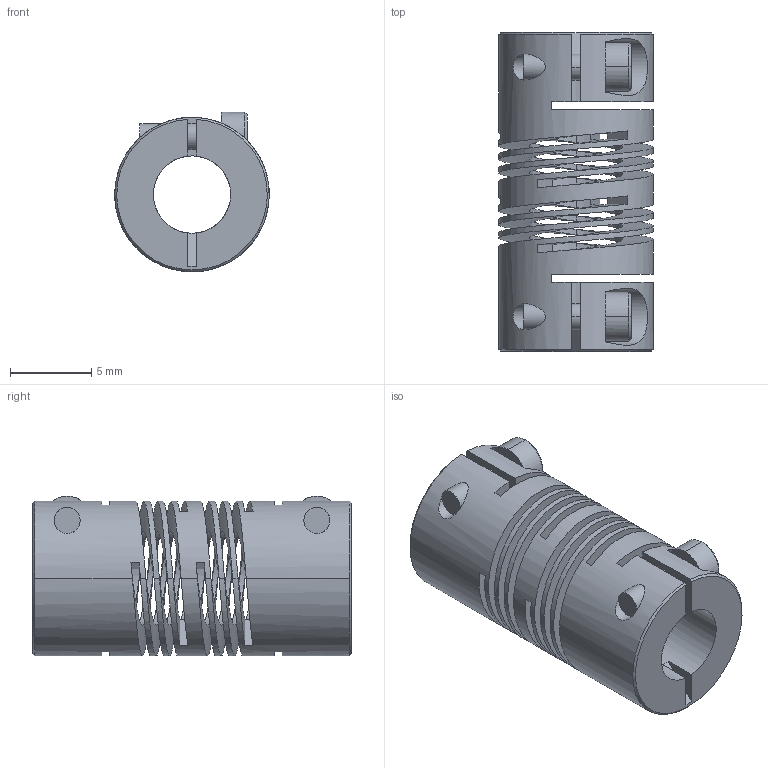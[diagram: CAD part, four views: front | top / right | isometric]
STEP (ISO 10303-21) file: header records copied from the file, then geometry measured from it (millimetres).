
FILE_DESCRIPTION((''),'2;1');
FILE_NAME('727_09','2006-12-05T',('Gary Melling'),(''),'PRO/ENGINEER BY PARAMETRIC TECHNOLOGY CORPORATION, 2006240','PRO/ENGINEER BY PARAMETRIC TECHNOLOGY CORPORATION, 2006240','');
FILE_SCHEMA(('CONFIG_CONTROL_DESIGN'));
Length unit declared in the file: millimetre
Products named in the file (1): 727_09
Bounding box: 9.5 x 19.6 x 9.81 mm (x, y, z)
Volume: 757.2 mm3; surface area: 1719.6 mm2
Topology: 1 solids, 1 shells, 116 faces, 344 edges, 224 vertices
Faces by surface type: plane 58, cylinder 40, bspline 12, cone 6
Entity records: 5968 total; most frequent: CARTESIAN_POINT 2952, ORIENTED_EDGE 688, DIRECTION 526, EDGE_CURVE 344, VERTEX_POINT 224, VECTOR 186, LINE 186, AXIS2_PLACEMENT_3D 170
